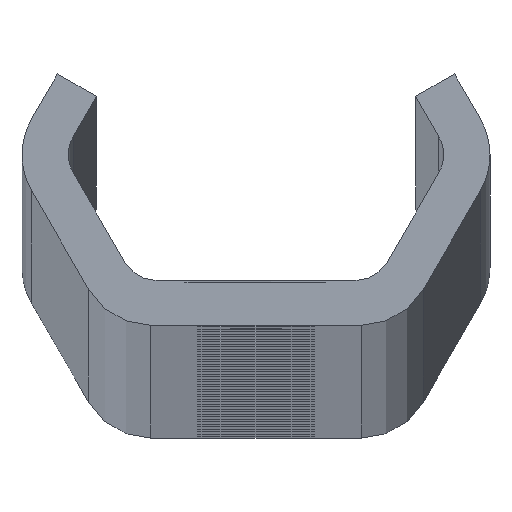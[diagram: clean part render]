
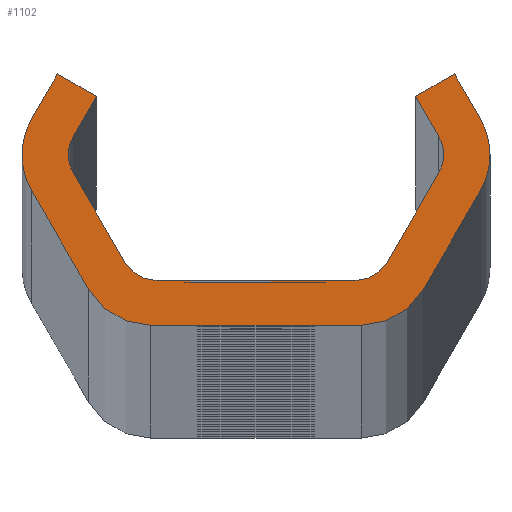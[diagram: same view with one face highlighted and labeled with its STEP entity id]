
A CAD part, top view. The second image highlights one B-rep face of the part: STEP entity #1102.
In plain terms, the highlighted planar face has unit normal (0, 0, 1).
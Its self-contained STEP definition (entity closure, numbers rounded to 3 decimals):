
#1102=ADVANCED_FACE('NONE',(#2983),#2984,.F.);
#2983=FACE_OUTER_BOUND('',#9494,.T.);
#2984=PLANE('',#9495);
#9494=EDGE_LOOP('',(#19483,#19484,#19485,#19486,#19487,#19488,#19489,#19490,#19491,#19492,#19493,#19494,#19495,#19496,#19497,#19498,#19499,#19500,#19501,#19502,#19503,#19504,#19505,#19506,#19507,#19508,#19509,#19510));
#9495=AXIS2_PLACEMENT_3D('',#19511,#19512,#19513);
#19483=ORIENTED_EDGE('',*,*,#25629,.F.);
#19484=ORIENTED_EDGE('',*,*,#25630,.T.);
#19485=ORIENTED_EDGE('',*,*,#25164,.F.);
#19486=ORIENTED_EDGE('',*,*,#25631,.T.);
#19487=ORIENTED_EDGE('',*,*,#25595,.T.);
#19488=ORIENTED_EDGE('',*,*,#25632,.T.);
#19489=ORIENTED_EDGE('',*,*,#24544,.T.);
#19490=ORIENTED_EDGE('',*,*,#25598,.T.);
#19491=ORIENTED_EDGE('',*,*,#25604,.T.);
#19492=ORIENTED_EDGE('',*,*,#25608,.T.);
#19493=ORIENTED_EDGE('',*,*,#25633,.T.);
#19494=ORIENTED_EDGE('',*,*,#24796,.T.);
#19495=ORIENTED_EDGE('',*,*,#25612,.T.);
#19496=ORIENTED_EDGE('',*,*,#25634,.T.);
#19497=ORIENTED_EDGE('',*,*,#25614,.T.);
#19498=ORIENTED_EDGE('',*,*,#25635,.T.);
#19499=ORIENTED_EDGE('',*,*,#25623,.F.);
#19500=ORIENTED_EDGE('',*,*,#25636,.T.);
#19501=ORIENTED_EDGE('',*,*,#24549,.T.);
#19502=ORIENTED_EDGE('',*,*,#25626,.F.);
#19503=ORIENTED_EDGE('',*,*,#25147,.F.);
#19504=ORIENTED_EDGE('',*,*,#25151,.F.);
#19505=ORIENTED_EDGE('',*,*,#24793,.T.);
#19506=ORIENTED_EDGE('',*,*,#25637,.T.);
#19507=ORIENTED_EDGE('',*,*,#25155,.F.);
#19508=ORIENTED_EDGE('',*,*,#25638,.T.);
#19509=ORIENTED_EDGE('',*,*,#25160,.F.);
#19510=ORIENTED_EDGE('',*,*,#25639,.T.);
#19511=CARTESIAN_POINT('',(0.0,0.0,3600.0));
#19512=DIRECTION('',(0.0,0.0,-1.0));
#19513=DIRECTION('',(0.0,-1.0,0.0));
#24544=EDGE_CURVE('NONE',#27333,#27337,#27339,.T.);
#24549=EDGE_CURVE('NONE',#27342,#27346,#27348,.T.);
#24793=EDGE_CURVE('NONE',#27787,#27785,#27788,.T.);
#24796=EDGE_CURVE('NONE',#27791,#27792,#27793,.T.);
#25147=EDGE_CURVE('NONE',#28319,#28321,#28322,.T.);
#25151=EDGE_CURVE('NONE',#27787,#28319,#28326,.T.);
#25155=EDGE_CURVE('NONE',#28331,#28333,#28334,.T.);
#25160=EDGE_CURVE('NONE',#28340,#28342,#28343,.T.);
#25164=EDGE_CURVE('NONE',#28348,#28338,#28350,.T.);
#25595=EDGE_CURVE('NONE',#29186,#29184,#29187,.T.);
#25598=EDGE_CURVE('NONE',#27337,#29190,#29191,.T.);
#25604=EDGE_CURVE('NONE',#29190,#29198,#29200,.T.);
#25608=EDGE_CURVE('NONE',#29198,#29204,#29206,.T.);
#25612=EDGE_CURVE('NONE',#27792,#29210,#29212,.T.);
#25614=EDGE_CURVE('NONE',#29214,#29215,#29216,.T.);
#25623=EDGE_CURVE('NONE',#29228,#29230,#29231,.T.);
#25626=EDGE_CURVE('NONE',#28321,#27346,#29234,.T.);
#25629=EDGE_CURVE('NONE',#29237,#29238,#29239,.T.);
#25630=EDGE_CURVE('NONE',#29237,#28338,#29240,.T.);
#25631=EDGE_CURVE('NONE',#28348,#29186,#29241,.T.);
#25632=EDGE_CURVE('NONE',#29184,#27333,#29242,.T.);
#25633=EDGE_CURVE('NONE',#29204,#27791,#29243,.T.);
#25634=EDGE_CURVE('NONE',#29210,#29214,#29244,.T.);
#25635=EDGE_CURVE('NONE',#29215,#29230,#29245,.T.);
#25636=EDGE_CURVE('NONE',#29228,#27342,#29246,.T.);
#25637=EDGE_CURVE('NONE',#27785,#28333,#29247,.T.);
#25638=EDGE_CURVE('NONE',#28331,#28342,#29248,.T.);
#25639=EDGE_CURVE('NONE',#28340,#29238,#29249,.T.);
#27333=VERTEX_POINT('',#31466);
#27337=VERTEX_POINT('NONE',#31471);
#27339=CIRCLE('',#31474,2.0);
#27342=VERTEX_POINT('',#31477);
#27346=VERTEX_POINT('NONE',#31482);
#27348=CIRCLE('',#31485,4.0);
#27785=VERTEX_POINT('NONE',#35950);
#27787=VERTEX_POINT('NONE',#35953);
#27788=CIRCLE('',#35954,2.0);
#27791=VERTEX_POINT('NONE',#35958);
#27792=VERTEX_POINT('NONE',#35959);
#27793=CIRCLE('',#35960,4.0);
#28319=VERTEX_POINT('NONE',#36575);
#28321=VERTEX_POINT('NONE',#36578);
#28322=LINE('',#36579,#36580);
#28326=LINE('',#36586,#36587);
#28331=VERTEX_POINT('NONE',#36593);
#28333=VERTEX_POINT('NONE',#36596);
#28334=LINE('',#36597,#36598);
#28338=VERTEX_POINT('NONE',#36603);
#28340=VERTEX_POINT('NONE',#36606);
#28342=VERTEX_POINT('NONE',#36609);
#28343=LINE('',#36610,#36611);
#28348=VERTEX_POINT('NONE',#36618);
#28350=LINE('',#36621,#36622);
#29184=VERTEX_POINT('NONE',#39805);
#29186=VERTEX_POINT('NONE',#39808);
#29187=LINE('',#39809,#39810);
#29190=VERTEX_POINT('NONE',#39814);
#29191=LINE('',#39815,#39816);
#29198=VERTEX_POINT('NONE',#39826);
#29200=LINE('',#39829,#39830);
#29204=VERTEX_POINT('NONE',#39835);
#29206=LINE('',#39838,#39839);
#29210=VERTEX_POINT('NONE',#39844);
#29212=LINE('',#39847,#39848);
#29214=VERTEX_POINT('NONE',#39850);
#29215=VERTEX_POINT('NONE',#39851);
#29216=LINE('',#39852,#39853);
#29228=VERTEX_POINT('NONE',#39869);
#29230=VERTEX_POINT('NONE',#39872);
#29231=LINE('',#39873,#39874);
#29234=LINE('',#39878,#39879);
#29237=VERTEX_POINT('NONE',#39883);
#29238=VERTEX_POINT('NONE',#39884);
#29239=LINE('',#39885,#39886);
#29240=LINE('',#39887,#39888);
#29241=CIRCLE('',#39889,2.0);
#29242=CIRCLE('',#39890,2.0);
#29243=CIRCLE('',#39891,4.0);
#29244=CIRCLE('',#39892,4.0);
#29245=CIRCLE('',#39893,4.0);
#29246=CIRCLE('',#39894,4.0);
#29247=CIRCLE('',#39895,2.0);
#29248=CIRCLE('',#39896,2.0);
#29249=LINE('',#39897,#39898);
#31466=CARTESIAN_POINT('',(-10.455,0.,3600.0));
#31471=CARTESIAN_POINT('',(-10.187,1.,3600.0));
#31474=AXIS2_PLACEMENT_3D('',#47383,#47384,#47385);
#31477=CARTESIAN_POINT('',(13.032,0.,3600.0));
#31482=CARTESIAN_POINT('',(12.496,2.,3600.0));
#31485=AXIS2_PLACEMENT_3D('',#47391,#47392,#47393);
#35950=CARTESIAN_POINT('',(10.455,0.,3600.0));
#35953=CARTESIAN_POINT('',(10.187,1.,3600.0));
#35954=AXIS2_PLACEMENT_3D('',#47506,#47507,#47508);
#35958=CARTESIAN_POINT('',(-13.032,0.,3600.0));
#35959=CARTESIAN_POINT('',(-12.496,-2.,3600.0));
#35960=AXIS2_PLACEMENT_3D('',#47510,#47511,#47512);
#36575=CARTESIAN_POINT('',(8.888,3.25,3600.0));
#36578=CARTESIAN_POINT('',(11.053,4.5,3600.0));
#36579=CARTESIAN_POINT('',(8.888,3.25,3600.0));
#36580=VECTOR('',#48122,1000.0);
#36586=CARTESIAN_POINT('',(10.764,0.,3600.0));
#36587=VECTOR('',#48125,1000.0);
#36593=CARTESIAN_POINT('',(7.3,-6.,3600.0));
#36596=CARTESIAN_POINT('',(10.187,-1.,3600.0));
#36597=CARTESIAN_POINT('',(6.723,-7.0,3600.0));
#36598=VECTOR('',#48128,1000.0);
#36603=CARTESIAN_POINT('',(-3.702,-7.0,3600.0));
#36606=CARTESIAN_POINT('',(0.841,-7.0,3600.0));
#36609=CARTESIAN_POINT('',(5.568,-7.0,3600.0));
#36610=CARTESIAN_POINT('',(-6.723,-7.0,3600.0));
#36611=VECTOR('',#48132,1000.0);
#36618=CARTESIAN_POINT('',(-5.568,-7.0,3600.0));
#36621=CARTESIAN_POINT('',(-6.723,-7.0,3600.0));
#36622=VECTOR('',#48136,1000.0);
#39805=CARTESIAN_POINT('',(-10.187,-1.,3600.0));
#39808=CARTESIAN_POINT('',(-7.3,-6.,3600.0));
#39809=CARTESIAN_POINT('',(-6.723,-7.0,3600.0));
#39810=VECTOR('',#48523,1000.0);
#39814=CARTESIAN_POINT('',(-8.888,3.25,3600.0));
#39815=CARTESIAN_POINT('',(-10.764,0.0,3600.0));
#39816=VECTOR('',#48525,1000.0);
#39826=CARTESIAN_POINT('',(-11.053,4.5,3600.0));
#39829=CARTESIAN_POINT('',(-8.888,3.25,3600.0));
#39830=VECTOR('',#48530,1000.0);
#39835=CARTESIAN_POINT('',(-12.496,2.0,3600.0));
#39838=CARTESIAN_POINT('',(-11.053,4.5,3600.0));
#39839=VECTOR('',#48533,1000.0);
#39844=CARTESIAN_POINT('',(-9.321,-7.5,3600.0));
#39847=CARTESIAN_POINT('',(-13.651,0.0,3600.0));
#39848=VECTOR('',#48536,1000.0);
#39850=CARTESIAN_POINT('',(-5.857,-9.5,3600.0));
#39851=CARTESIAN_POINT('',(5.857,-9.5,3600.0));
#39852=CARTESIAN_POINT('',(-8.166,-9.5,3600.0));
#39853=VECTOR('',#48537,1000.0);
#39869=CARTESIAN_POINT('',(12.496,-2.,3600.0));
#39872=CARTESIAN_POINT('',(9.321,-7.5,3600.0));
#39873=CARTESIAN_POINT('',(13.651,0.,3600.0));
#39874=VECTOR('',#48549,1000.0);
#39878=CARTESIAN_POINT('',(11.053,4.5,3600.0));
#39879=VECTOR('',#48551,1000.0);
#39883=CARTESIAN_POINT('',(-3.702,-7.1,3600.0));
#39884=CARTESIAN_POINT('',(0.841,-7.1,3600.0));
#39885=CARTESIAN_POINT('',(0.,-7.1,3600.0));
#39886=VECTOR('',#48553,1000.0);
#39887=CARTESIAN_POINT('',(-3.702,0.,3600.0));
#39888=VECTOR('',#48554,1000.0);
#39889=AXIS2_PLACEMENT_3D('',#48555,#48556,#48557);
#39890=AXIS2_PLACEMENT_3D('',#48558,#48559,#48560);
#39891=AXIS2_PLACEMENT_3D('',#48561,#48562,#48563);
#39892=AXIS2_PLACEMENT_3D('',#48564,#48565,#48566);
#39893=AXIS2_PLACEMENT_3D('',#48567,#48568,#48569);
#39894=AXIS2_PLACEMENT_3D('',#48570,#48571,#48572);
#39895=AXIS2_PLACEMENT_3D('',#48573,#48574,#48575);
#39896=AXIS2_PLACEMENT_3D('',#48576,#48577,#48578);
#39897=CARTESIAN_POINT('',(0.841,0.,3600.0));
#39898=VECTOR('',#48579,1000.0);
#47383=CARTESIAN_POINT('',(-8.455,0.,3600.0));
#47384=DIRECTION('',(0.0,0.0,-1.0));
#47385=DIRECTION('',(-1.0,0.0,0.0));
#47391=CARTESIAN_POINT('',(9.032,0.,3600.0));
#47392=DIRECTION('',(0.0,0.0,1.0));
#47393=DIRECTION('',(-1.0,0.0,0.0));
#47506=CARTESIAN_POINT('',(8.455,0.,3600.0));
#47507=DIRECTION('',(0.0,0.0,-1.0));
#47508=DIRECTION('',(-1.0,0.0,0.0));
#47510=CARTESIAN_POINT('',(-9.032,0.,3600.0));
#47511=DIRECTION('',(0.0,0.0,1.0));
#47512=DIRECTION('',(-1.0,0.0,0.0));
#48122=DIRECTION('',(0.866,0.5,0.0));
#48125=DIRECTION('',(-0.5,0.866,0.0));
#48128=DIRECTION('',(0.5,0.866,0.0));
#48132=DIRECTION('',(1.0,0.,0.0));
#48136=DIRECTION('',(1.0,0.,0.0));
#48523=DIRECTION('',(-0.5,0.866,0.0));
#48525=DIRECTION('',(0.5,0.866,0.0));
#48530=DIRECTION('',(-0.866,0.5,0.0));
#48533=DIRECTION('',(-0.5,-0.866,0.0));
#48536=DIRECTION('',(0.5,-0.866,0.0));
#48537=DIRECTION('',(1.0,0.,0.0));
#48549=DIRECTION('',(-0.5,-0.866,0.0));
#48551=DIRECTION('',(0.5,-0.866,0.0));
#48553=DIRECTION('',(1.0,0.,0.0));
#48554=DIRECTION('',(0.,1.0,0.0));
#48555=CARTESIAN_POINT('',(-5.568,-5.0,3600.0));
#48556=DIRECTION('',(0.0,0.0,-1.0));
#48557=DIRECTION('',(-1.0,0.0,0.0));
#48558=CARTESIAN_POINT('',(-8.455,0.,3600.0));
#48559=DIRECTION('',(0.0,0.0,-1.0));
#48560=DIRECTION('',(-1.0,0.0,0.0));
#48561=CARTESIAN_POINT('',(-9.032,0.,3600.0));
#48562=DIRECTION('',(0.0,0.0,1.0));
#48563=DIRECTION('',(-1.0,0.,0.0));
#48564=CARTESIAN_POINT('',(-5.857,-5.5,3600.0));
#48565=DIRECTION('',(0.0,0.0,1.0));
#48566=DIRECTION('',(-1.0,0.0,0.0));
#48567=CARTESIAN_POINT('',(5.857,-5.5,3600.0));
#48568=DIRECTION('',(0.0,0.0,1.0));
#48569=DIRECTION('',(-1.0,0.,0.0));
#48570=CARTESIAN_POINT('',(9.032,0.,3600.0));
#48571=DIRECTION('',(0.0,0.0,1.0));
#48572=DIRECTION('',(-1.0,0.0,0.0));
#48573=CARTESIAN_POINT('',(8.455,0.,3600.0));
#48574=DIRECTION('',(0.0,0.0,-1.0));
#48575=DIRECTION('',(-1.0,0.0,0.0));
#48576=CARTESIAN_POINT('',(5.568,-5.0,3600.0));
#48577=DIRECTION('',(0.0,0.0,-1.0));
#48578=DIRECTION('',(-1.0,0.0,0.0));
#48579=DIRECTION('',(0.,-1.0,0.0));
